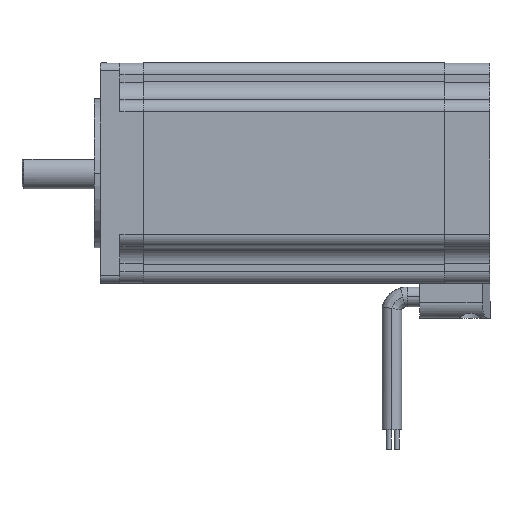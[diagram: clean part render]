
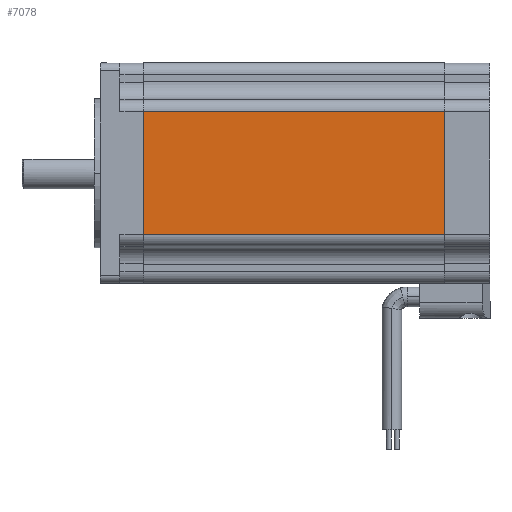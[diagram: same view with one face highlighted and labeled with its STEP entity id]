
A CAD part, left-side view. The second image highlights one B-rep face of the part: STEP entity #7078.
In plain terms, the highlighted planar face has unit normal (-1, 0, 0).
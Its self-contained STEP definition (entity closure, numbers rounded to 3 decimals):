
#315 = VERTEX_POINT ( 'NONE', #8183 ) ;
#349 = VECTOR ( 'NONE', #2226, 1000. ) ;
#467 = ORIENTED_EDGE ( 'NONE', *, *, #1868, .T. ) ;
#503 = EDGE_LOOP ( 'NONE', ( #9306, #467, #7705, #4255 ) ) ;
#753 = VECTOR ( 'NONE', #3408, 1000. ) ;
#857 = CARTESIAN_POINT ( 'NONE',  ( -28.2, 77., 15.8 ) ) ;
#979 = DIRECTION ( 'NONE',  ( 1., 0., 0. ) ) ;
#1534 = DIRECTION ( 'NONE',  ( 0., -1., 0. ) ) ;
#1868 = EDGE_CURVE ( 'NONE', #8724, #6065, #2035, .T. ) ;
#2035 = LINE ( 'NONE', #4685, #2136 ) ;
#2136 = VECTOR ( 'NONE', #1534, 1000. ) ;
#2226 = DIRECTION ( 'NONE',  ( 0., 0., 1. ) ) ;
#2288 = EDGE_CURVE ( 'NONE', #315, #2596, #5785, .T. ) ;
#2458 = VECTOR ( 'NONE', #8783, 1000. ) ;
#2504 = FACE_OUTER_BOUND ( 'NONE', #503, .T. ) ;
#2596 = VERTEX_POINT ( 'NONE', #857 ) ;
#3408 = DIRECTION ( 'NONE',  ( 0., 1., 0. ) ) ;
#3413 = EDGE_CURVE ( 'NONE', #6065, #315, #7527, .T. ) ;
#4255 = ORIENTED_EDGE ( 'NONE', *, *, #2288, .T. ) ;
#4367 = CARTESIAN_POINT ( 'NONE',  ( -28.2, 77., -15.8 ) ) ;
#4685 = CARTESIAN_POINT ( 'NONE',  ( -28.2, 77., -15.8 ) ) ;
#4940 = EDGE_CURVE ( 'NONE', #8724, #2596, #5797, .T. ) ;
#5157 = CARTESIAN_POINT ( 'NONE',  ( -28.2, 77., 18.8 ) ) ;
#5536 = CARTESIAN_POINT ( 'NONE',  ( -28.2, 77., 15.8 ) ) ;
#5630 = CARTESIAN_POINT ( 'NONE',  ( -28.2, 0., -15.8 ) ) ;
#5785 = LINE ( 'NONE', #5536, #753 ) ;
#5797 = LINE ( 'NONE', #5157, #349 ) ;
#6065 = VERTEX_POINT ( 'NONE', #5630 ) ;
#6097 = DIRECTION ( 'NONE',  ( 0., 0., -1. ) ) ;
#6481 = CARTESIAN_POINT ( 'NONE',  ( -28.2, 0., 18.8 ) ) ;
#6810 = PLANE ( 'NONE',  #7977 ) ;
#7078 = ADVANCED_FACE ( 'NONE', ( #2504 ), #6810, .F. ) ;
#7527 = LINE ( 'NONE', #6481, #2458 ) ;
#7705 = ORIENTED_EDGE ( 'NONE', *, *, #3413, .T. ) ;
#7977 = AXIS2_PLACEMENT_3D ( 'NONE', #9014, #979, #6097 ) ;
#8183 = CARTESIAN_POINT ( 'NONE',  ( -28.2, 0., 15.8 ) ) ;
#8724 = VERTEX_POINT ( 'NONE', #4367 ) ;
#8783 = DIRECTION ( 'NONE',  ( 0., 0., 1. ) ) ;
#9014 = CARTESIAN_POINT ( 'NONE',  ( -28.2, 77., 18.8 ) ) ;
#9306 = ORIENTED_EDGE ( 'NONE', *, *, #4940, .F. ) ;
